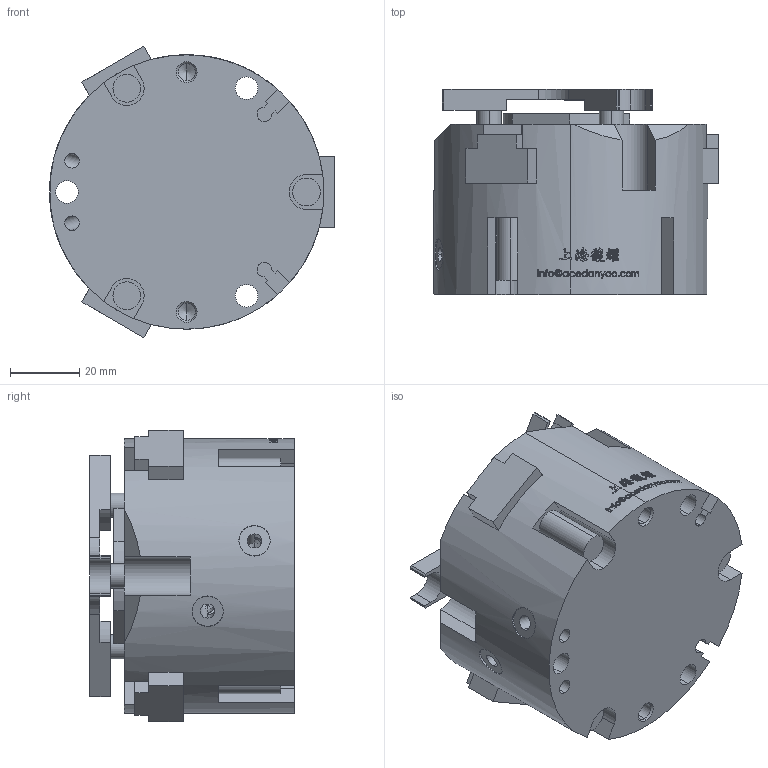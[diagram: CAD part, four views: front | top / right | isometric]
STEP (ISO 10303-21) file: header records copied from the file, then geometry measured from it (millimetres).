
FILE_DESCRIPTION (( 'STEP AP203' ), '1' );
FILE_NAME ('MAC3-80-C2-P-原始檔-組合-W106.04.14.STEP', '2017-04-14T00:54:39', ( 'DanyaoCAD' ), ( '' ), 'SwSTEP 2.0', 'SolidWorks 2016', '' );
FILE_SCHEMA (( 'CONFIG_CONTROL_DESIGN' ));
Products named in the file (5): Coperchio; Corpo; MAC3-80-C2-P-原始檔-組合-W106.04.14; Griffa; Piattello
Assembly tree (6 placements, depth 2):
  MAC3-80-C2-P-原始檔-組合-W106.04.14
    Griffa  x3
    Piattello
    Coperchio
    Corpo
Bounding box: 81.96 x 59 x 83.91 mm (x, y, z)
Volume: 225238.7 mm3; surface area: 51939.1 mm2
Topology: 6 solids, 6 shells, 1126 faces, 3120 edges, 2050 vertices
Faces by surface type: bspline 665, plane 258, cylinder 158, cone 45
Entity records: 74086 total; most frequent: CARTESIAN_POINT 52087, ORIENTED_EDGE 5880, EDGE_CURVE 2940, B_SPLINE_CURVE_WITH_KNOTS 2043, DIRECTION 2019, VERTEX_POINT 1950, EDGE_LOOP 1142, ADVANCED_FACE 1062
